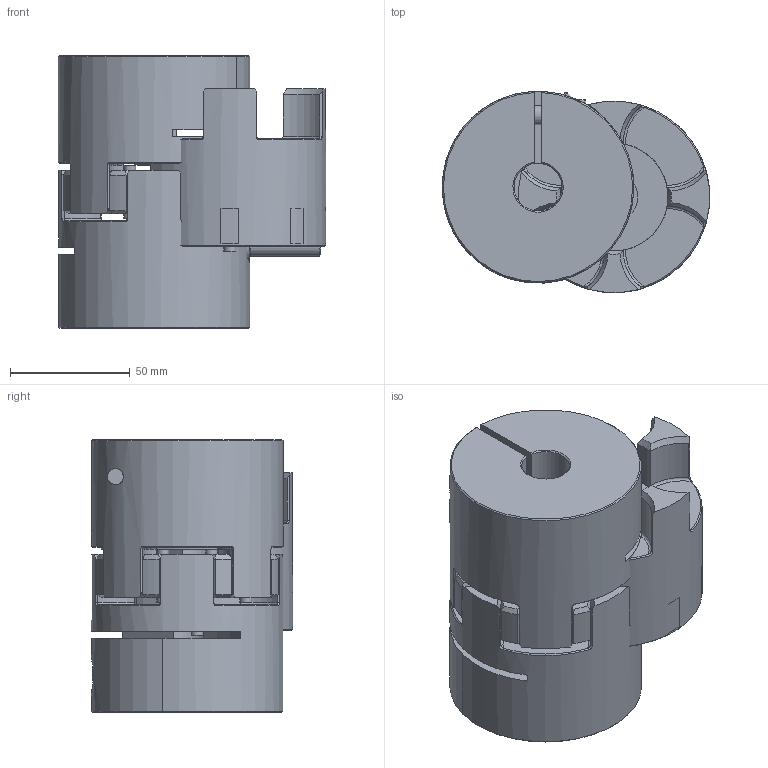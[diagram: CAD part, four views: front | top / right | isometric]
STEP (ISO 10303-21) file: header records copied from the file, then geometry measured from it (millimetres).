
FILE_DESCRIPTION( ( 'Unknown' ), '1' );
FILE_NAME( 'C:/Dokumente und Einstellungen/Sven/Desktop/homepage/cad - homepage/KBE2/KBE2-38.stp', 'Unknown', ( 'Unknown' ), ( 'Unknown' ), 'XStep 1.0', 'Unknown', ' ' );
FILE_SCHEMA( ( 'automotive_design' ) );
Length unit declared in the file: millimetre
Products named in the file (4): Assem1; KN38_Standard; Socket Head Cap Screw_DIN_DIN 912 M8 x 30 --- 30N; ZK38_Standard
Bounding box: 111.7 x 83.99 x 114 mm (x, y, z)
Volume: 740533 mm3; surface area: 141165.1 mm2
Topology: 8 solids, 8 shells, 518 faces, 1255 edges, 776 vertices
Faces by surface type: cone 160, plane 150, cylinder 150, torus 34, bspline 24
Full cylindrical faces by diameter (mm): 5 x16, 6.8 x3, 8 x3, 8.2 x3, 13 x3, 15 x3, 20 x3, 38 x4, 45.108 x3, 80 x3
Entity records: 7293 total; most frequent: CARTESIAN_POINT 1984, DIRECTION 990, ORIENTED_EDGE 922, EDGE_CURVE 461, AXIS2_PLACEMENT_3D 442, VERTEX_POINT 298, EDGE_LOOP 250, CIRCLE 237
